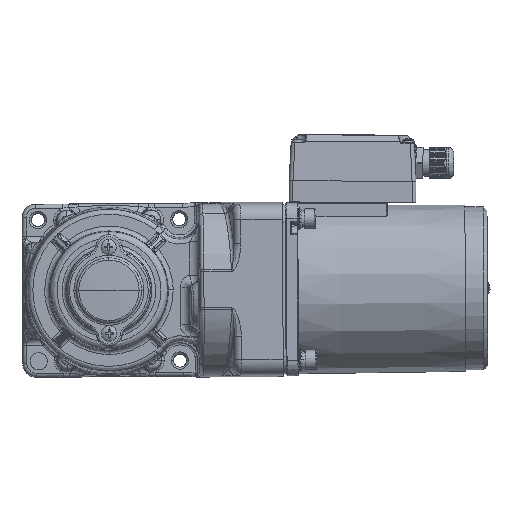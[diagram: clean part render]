
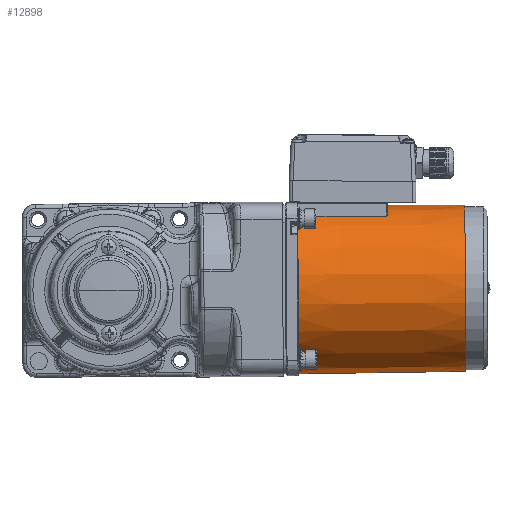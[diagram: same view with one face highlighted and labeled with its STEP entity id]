
A CAD part, left-side view. The second image highlights one B-rep face of the part: STEP entity #12898.
In plain terms, the highlighted conical face has half-angle 0.5 degrees and reference radius 44 mm.
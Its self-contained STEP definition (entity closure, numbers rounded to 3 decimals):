
#208 = CARTESIAN_POINT ( 'NONE',  ( 40.479, -17.307, 173.839 ) ) ;
#2003 = CARTESIAN_POINT ( 'NONE',  ( 40.597, -17.096, 173.752 ) ) ;
#2293 = CARTESIAN_POINT ( 'NONE',  ( 46.153, 4.201, 173.752 ) ) ;
#8395 = CARTESIAN_POINT ( 'NONE',  ( 45.8, 4.201, 133.252 ) ) ;
#10363 = CARTESIAN_POINT ( 'NONE',  ( 40.448, -17.363, 173.915 ) ) ;
#11779 = CIRCLE ( 'NONE', #82550, 43.594 ) ;
#12417 = CARTESIAN_POINT ( 'NONE',  ( 40.597, -17.096, 173.752 ) ) ;
#12898 = ADVANCED_FACE ( 'NONE', ( #80119 ), #14817, .T. ) ;
#14346 = CARTESIAN_POINT ( 'NONE',  ( 40.431, -17.396, 174.049 ) ) ;
#14817 = CONICAL_SURFACE ( 'NONE', #100917, 44., 0.009 ) ;
#14938 = CARTESIAN_POINT ( 'NONE',  ( 40.586, -17.664, 204.851 ) ) ;
#15363 = DIRECTION ( 'NONE',  ( 1., 0., 0. ) ) ;
#17339 = ORIENTED_EDGE ( 'NONE', *, *, #60610, .T. ) ;
#19672 = DIRECTION ( 'NONE',  ( 0., 0., -1. ) ) ;
#19959 = CARTESIAN_POINT ( 'NONE',  ( 40.453, -17.353, 173.897 ) ) ;
#20511 = CARTESIAN_POINT ( 'NONE',  ( 40.431, -17.396, 174.049 ) ) ;
#20663 = ORIENTED_EDGE ( 'NONE', *, *, #101028, .T. ) ;
#22147 = CARTESIAN_POINT ( 'NONE',  ( -40.682, 4.201, 133.252 ) ) ;
#24655 = CARTESIAN_POINT ( 'NONE',  ( 46.559, 4.201, 220.252 ) ) ;
#25912 = ORIENTED_EDGE ( 'NONE', *, *, #110676, .T. ) ;
#27149 = CARTESIAN_POINT ( 'NONE',  ( 40.463, -17.335, 173.871 ) ) ;
#29226 = DIRECTION ( 'NONE',  ( 1., 0., 0. ) ) ;
#31032 = EDGE_CURVE ( 'NONE', #32640, #42263, #53023, .T. ) ;
#32497 = DIRECTION ( 'NONE',  ( -0.009, 0., 1. ) ) ;
#32640 = VERTEX_POINT ( 'NONE', #20511 ) ;
#33378 = CARTESIAN_POINT ( 'NONE',  ( 2.559, 4.201, 220.252 ) ) ;
#33579 = ORIENTED_EDGE ( 'NONE', *, *, #71267, .T. ) ;
#33802 = CIRCLE ( 'NONE', #114187, 44. ) ;
#34813 = LINE ( 'NONE', #24655, #63001 ) ;
#40908 = VERTEX_POINT ( 'NONE', #8395 ) ;
#42263 = VERTEX_POINT ( 'NONE', #85668 ) ;
#42295 = VERTEX_POINT ( 'NONE', #118311 ) ;
#42951 = DIRECTION ( 'NONE',  ( 0., 0., 1. ) ) ;
#44266 = CARTESIAN_POINT ( 'NONE',  ( 2.559, 4.201, 220.252 ) ) ;
#45135 = CARTESIAN_POINT ( 'NONE',  ( 40.546, -17.188, 173.764 ) ) ;
#46684 = EDGE_LOOP ( 'NONE', ( #76004, #33579, #20663, #17339, #93715, #48198, #25912 ) ) ;
#46932 = CARTESIAN_POINT ( 'NONE',  ( 40.569, -17.145, 173.752 ) ) ;
#48198 = ORIENTED_EDGE ( 'NONE', *, *, #31032, .T. ) ;
#50038 = EDGE_CURVE ( 'NONE', #32640, #106736, #77620, .T. ) ;
#53023 = B_SPLINE_CURVE_WITH_KNOTS ( 'NONE', 3,
 ( #14346, #97078, #14938, #59312 ),
 .UNSPECIFIED., .F., .F.,
 ( 4, 4 ),
 ( 0., 0.046 ),
 .UNSPECIFIED. ) ;
#53769 = CARTESIAN_POINT ( 'NONE',  ( 2.559, 4.201, 133.252 ) ) ;
#55597 = CARTESIAN_POINT ( 'NONE',  ( 2.559, 4.201, 173.752 ) ) ;
#55899 = CARTESIAN_POINT ( 'NONE',  ( 40.43, -17.395, 174.011 ) ) ;
#57100 = CARTESIAN_POINT ( 'NONE',  ( 40.476, -17.313, 173.845 ) ) ;
#59312 = CARTESIAN_POINT ( 'NONE',  ( 40.664, -17.799, 220.252 ) ) ;
#60610 = EDGE_CURVE ( 'NONE', #86684, #106736, #11779, .T. ) ;
#63001 = VECTOR ( 'NONE', #89411, 1000. ) ;
#63725 = CARTESIAN_POINT ( 'NONE',  ( 40.493, -17.281, 173.815 ) ) ;
#64335 = CARTESIAN_POINT ( 'NONE',  ( 40.482, -17.301, 173.833 ) ) ;
#64589 = DIRECTION ( 'NONE',  ( 0., 0., 1. ) ) ;
#65534 = CARTESIAN_POINT ( 'NONE',  ( 40.435, -17.387, 173.972 ) ) ;
#66137 = CARTESIAN_POINT ( 'NONE',  ( 40.508, -17.256, 173.795 ) ) ;
#71267 = EDGE_CURVE ( 'NONE', #106321, #40908, #106119, .T. ) ;
#73324 = CARTESIAN_POINT ( 'NONE',  ( 40.431, -17.396, 174.049 ) ) ;
#75849 = EDGE_CURVE ( 'NONE', #106321, #42295, #114575, .T. ) ;
#76004 = ORIENTED_EDGE ( 'NONE', *, *, #75849, .F. ) ;
#77620 = B_SPLINE_CURVE_WITH_KNOTS ( 'NONE', 3,
 ( #73324, #55899, #65534, #10363, #19959, #27149, #82919, #57100, #208, #109846, #64335, #63725, #66137, #45135, #46932, #2003 ),
 .UNSPECIFIED., .F., .F.,
 ( 4, 2, 2, 1, 1, 2, 2, 2, 4 ),
 ( 0., 0.25, 0.375, 0.437, 0.469, 0.484, 0.5, 0.75, 1. ),
 .UNSPECIFIED. ) ;
#80119 = FACE_OUTER_BOUND ( 'NONE', #46684, .T. ) ;
#82550 = AXIS2_PLACEMENT_3D ( 'NONE', #55597, #19672, #29226 ) ;
#82919 = CARTESIAN_POINT ( 'NONE',  ( 40.469, -17.326, 173.859 ) ) ;
#83220 = AXIS2_PLACEMENT_3D ( 'NONE', #53769, #64589, #90973 ) ;
#83736 = VECTOR ( 'NONE', #32497, 1000. ) ;
#85668 = CARTESIAN_POINT ( 'NONE',  ( 40.664, -17.799, 220.252 ) ) ;
#86684 = VERTEX_POINT ( 'NONE', #2293 ) ;
#89411 = DIRECTION ( 'NONE',  ( 0.009, 0., 1. ) ) ;
#90014 = CARTESIAN_POINT ( 'NONE',  ( -41.441, 4.201, 220.252 ) ) ;
#90973 = DIRECTION ( 'NONE',  ( 1., 0., 0. ) ) ;
#93715 = ORIENTED_EDGE ( 'NONE', *, *, #50038, .F. ) ;
#97078 = CARTESIAN_POINT ( 'NONE',  ( 40.509, -17.53, 189.45 ) ) ;
#98229 = DIRECTION ( 'NONE',  ( 0., 0., -1. ) ) ;
#100917 = AXIS2_PLACEMENT_3D ( 'NONE', #33378, #42951, #15363 ) ;
#101028 = EDGE_CURVE ( 'NONE', #40908, #86684, #34813, .T. ) ;
#106119 = CIRCLE ( 'NONE', #83220, 43.241 ) ;
#106321 = VERTEX_POINT ( 'NONE', #22147 ) ;
#106736 = VERTEX_POINT ( 'NONE', #12417 ) ;
#108974 = DIRECTION ( 'NONE',  ( 1., 0., 0. ) ) ;
#109846 = CARTESIAN_POINT ( 'NONE',  ( 40.481, -17.303, 173.836 ) ) ;
#110676 = EDGE_CURVE ( 'NONE', #42263, #42295, #33802, .T. ) ;
#114187 = AXIS2_PLACEMENT_3D ( 'NONE', #44266, #98229, #108974 ) ;
#114575 = LINE ( 'NONE', #90014, #83736 ) ;
#118311 = CARTESIAN_POINT ( 'NONE',  ( -41.441, 4.201, 220.252 ) ) ;
